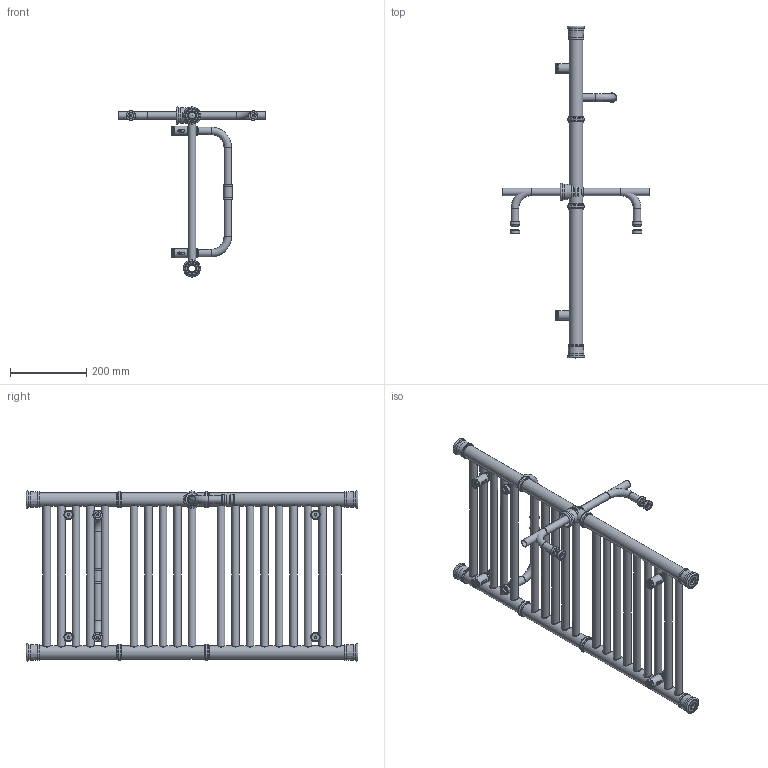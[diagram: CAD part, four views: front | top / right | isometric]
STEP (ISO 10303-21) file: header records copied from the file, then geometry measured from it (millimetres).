
FILE_DESCRIPTION( ( 'Unknown' ), '1' );
FILE_NAME( 'D:/Alplast sp. j/Witryna zespoBu - Projekty/Archiwum/Grzejniki Archiwum/Projekty/DESIGN PROGRAM/RETRO/Retro A3-400.stp', 'Unknown', ( 'Unknown' ), ( 'Unknown' ), 'PSStep 10.1', 'Unknown', ' ' );
FILE_SCHEMA( ( 'AUTOMOTIVE_DESIGN { 1 0 10303 214 1 1 1 1 }' ) );
Length unit declared in the file: millimetre
Products named in the file (50): katurek z wkrêtem do mocowania do  sciany; mocowanie do œciany; Assem1; suszarka Retro 400; Katurek fi 25 v4 ; wkrêt do katurka fi 25 v4; tulejka do mocowania grzejnika v3; mocowanie do grzejnika v3; zaœlepka do mocowania do œciany; detal-v3. par; element do suszarki do mocowania; element do suszarki do mocowania-oa0; tulejka do suszarki ; tulejka do suszarki -oa1; element do suszarki do mocowania ty³; element do suszarki do mocowania ty³-oa2; suszarka 400; kolektor Retro A3; kolektor Retro A3-oa3; Kana³ Prosty Retro 400; Kana³ Prosty Retro 400-oa4; Kana³ Prosty Retro 400-oa5; Kana³ Prosty Retro 400-oa6; Kana³ Prosty Retro 400-oa7; Kana³ Prosty Retro 400-oa8; Kana³ Prosty Retro 400-oa9; Kana³ Prosty Retro 400-oa10; Kana³ Prosty Retro 400-oa11; Kana³ Prosty Retro 400-oa12; Kana³ Prosty Retro 400-oa13; Kana³ Prosty Retro 400-oa14; Kana³ Prosty Retro 400-oa15; Kana³ Prosty Retro 400-oa16; Kana³ Prosty Retro 400-oa17; Kana³ Prosty Retro 400-oa18; Kana³ Prosty Retro 400-oa19; Kana³ Prosty Retro 400-oa20; Kana³ Prosty Retro 400-oa21; Zaslepka fi 35 z gwintem ; Zaslepka fi 35 z gwintem -oa22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
Bounding box: 384 x 868 x 444.97 mm (x, y, z)
Volume: 1926132.8 mm3; surface area: 2834689.1 mm2
Topology: 122 solids, 122 shells, 1024 faces, 2068 edges, 1322 vertices
Faces by surface type: cylinder 418, plane 302, torus 201, cone 84, bspline 12, sphere 7
Full cylindrical faces by diameter (mm): 4.917 x24, 5.9 x6, 6 x27, 6.3 x6, 6.4 x6, 15.5 x6, 17.5 x6, 17.6 x47, 18.631 x8, 20 x47, 20.3 x3, 20.5 x76, 20.6 x6, 21.15 x6, 21.9 x18, 22.8 x3, 24.5 x6, 25 x21, 25.25 x6, 25.3 x6, 32 x8, 32.4 x4, 35 x12, 35.3 x8, 35.5 x8, 39 x16, 41.15 x16
Entity records: 19252 total; most frequent: CARTESIAN_POINT 8742, DIRECTION 1498, ORIENTED_EDGE 830, EDGE_LOOP 812, AXIS2_PLACEMENT_3D 745, FACE_OUTER_BOUND 601, EDGE_CURVE 415, VERTEX_POINT 412
